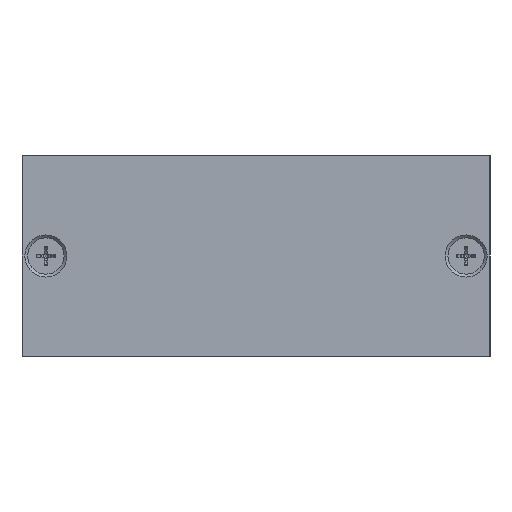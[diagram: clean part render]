
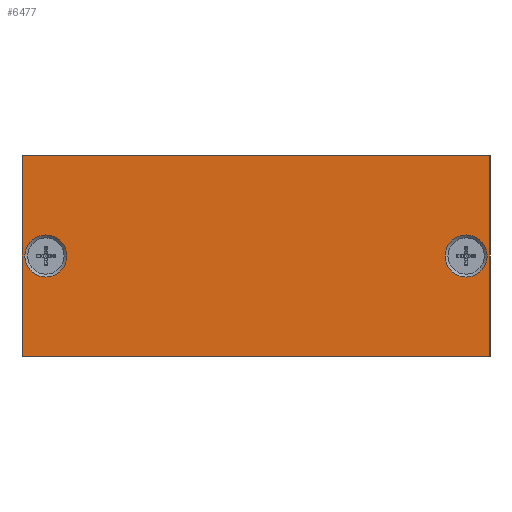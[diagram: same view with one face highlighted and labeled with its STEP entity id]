
A CAD part, left-side view. The second image highlights one B-rep face of the part: STEP entity #6477.
In plain terms, the highlighted planar face has unit normal (-1, 0, 0) as drawn and (0, 0, -1) by its records, which use the part's own axes.
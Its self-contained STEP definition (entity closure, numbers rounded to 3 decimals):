
#512=LINE('',#10818,#983);
#516=LINE('',#10825,#987);
#519=LINE('',#10831,#990);
#521=LINE('',#10834,#992);
#983=VECTOR('',#8766,10.);
#987=VECTOR('',#8772,10.);
#990=VECTOR('',#8777,10.);
#992=VECTOR('',#8781,10.);
#1302=PLANE('',#7211);
#1654=FACE_BOUND('',#2506,.T.);
#1655=FACE_BOUND('',#2507,.T.);
#1961=FACE_OUTER_BOUND('',#2505,.T.);
#2505=EDGE_LOOP('',(#5537,#5538,#5539,#5540));
#2506=EDGE_LOOP('',(#5541));
#2507=EDGE_LOOP('',(#5542));
#2918=CIRCLE('',#7195,2.2);
#2921=CIRCLE('',#7200,2.2);
#3392=VERTEX_POINT('',#10792);
#3395=VERTEX_POINT('',#10800);
#3400=VERTEX_POINT('',#10815);
#3401=VERTEX_POINT('',#10817);
#3403=VERTEX_POINT('',#10823);
#3405=VERTEX_POINT('',#10829);
#4142=EDGE_CURVE('',#3392,#3392,#2918,.T.);
#4145=EDGE_CURVE('',#3395,#3395,#2921,.T.);
#4152=EDGE_CURVE('',#3401,#3400,#512,.T.);
#4156=EDGE_CURVE('',#3400,#3403,#516,.T.);
#4159=EDGE_CURVE('',#3403,#3405,#519,.T.);
#4161=EDGE_CURVE('',#3405,#3401,#521,.T.);
#5537=ORIENTED_EDGE('',*,*,#4161,.T.);
#5538=ORIENTED_EDGE('',*,*,#4152,.T.);
#5539=ORIENTED_EDGE('',*,*,#4156,.T.);
#5540=ORIENTED_EDGE('',*,*,#4159,.T.);
#5541=ORIENTED_EDGE('',*,*,#4142,.T.);
#5542=ORIENTED_EDGE('',*,*,#4145,.T.);
#6477=ADVANCED_FACE('',(#1961,#1654,#1655),#1302,.F.);
#7195=AXIS2_PLACEMENT_3D('',#10793,#8738,#8739);
#7200=AXIS2_PLACEMENT_3D('',#10801,#8748,#8749);
#7211=AXIS2_PLACEMENT_3D('',#10836,#8784,#8785);
#8738=DIRECTION('center_axis',(0.,0.,1.));
#8739=DIRECTION('ref_axis',(-1.,0.,0.));
#8748=DIRECTION('center_axis',(0.,0.,1.));
#8749=DIRECTION('ref_axis',(-1.,0.,0.));
#8766=DIRECTION('',(0.,-1.,0.));
#8772=DIRECTION('',(-1.,0.,0.));
#8777=DIRECTION('',(0.,1.,0.));
#8781=DIRECTION('',(1.,0.,0.));
#8784=DIRECTION('center_axis',(0.,0.,1.));
#8785=DIRECTION('ref_axis',(1.,0.,0.));
#10792=CARTESIAN_POINT('',(-24.2,0.,0.));
#10793=CARTESIAN_POINT('Origin',(-22.,0.,0.));
#10800=CARTESIAN_POINT('',(19.8,0.,0.));
#10801=CARTESIAN_POINT('Origin',(22.,0.,0.));
#10815=CARTESIAN_POINT('',(24.5,-10.5,0.));
#10817=CARTESIAN_POINT('',(24.5,10.5,0.));
#10818=CARTESIAN_POINT('',(24.5,10.5,0.));
#10823=CARTESIAN_POINT('',(-24.5,-10.5,0.));
#10825=CARTESIAN_POINT('',(24.5,-10.5,0.));
#10829=CARTESIAN_POINT('',(-24.5,10.5,0.));
#10831=CARTESIAN_POINT('',(-24.5,-10.5,0.));
#10834=CARTESIAN_POINT('',(-24.5,10.5,0.));
#10836=CARTESIAN_POINT('Origin',(0.,0.,0.));
